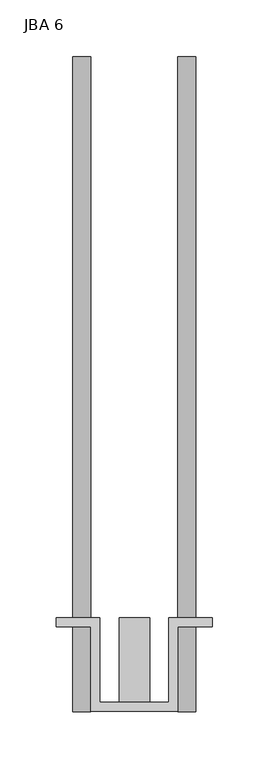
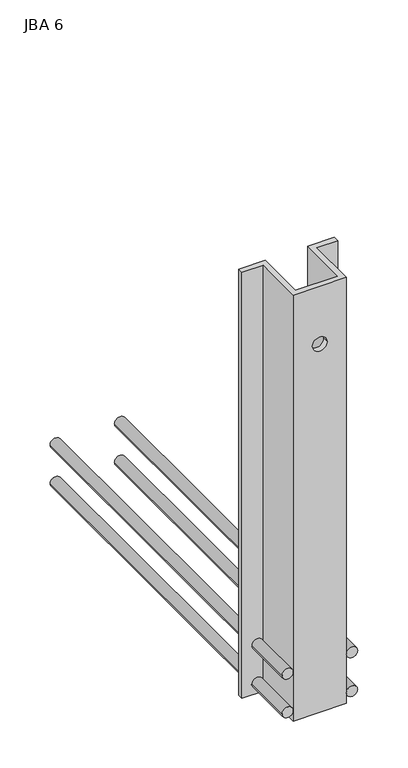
"""IFC4 building model written with IfcOpenShell, lengths in millimetres: fastener geometry, JBA JORDAHL® support corbels_1 : JBA 6."""

from ifc_helpers import new_model, si_unit, point, frame, frame_2d, origin, place, context, project, spatial, polyline, circle_curve, trimmed, segment, composite_curve, outline, extrude, source, transform, mapped, element, save
from ifc_brep_helpers import plane_surface, revolved_surface, advanced_brep


def jba_6_cc252f45(model_context):
    return source(origin(), model_context, "Body", "SolidModel", [
        extrude(outline(composite_curve([segment(trimmed(circle_curve(frame_2d((-33.0, -46.5)), 8.0), [point((-33.0, -54.5))], [point((-33.0, -38.5))], False, "CARTESIAN"), True, "CONTINUOUS"), segment(trimmed(circle_curve(frame_2d((-33.0, -46.5)), 8.0), [point((-33.0, -38.5))], [point((-33.0, -54.5))], False, "CARTESIAN"), True, "CONTINUOUS")], self_intersect=False)), frame((0.0, 0.0, 0.0), z_axis=(0.0, 1.0, 0.0), x_axis=(0.0, 0.0, 1.0)), (0.0, 0.0, 1.0), 580.0),
        extrude(outline(composite_curve([segment(trimmed(circle_curve(frame_2d((-33.0, 46.5)), 8.0), [point((-33.0, 38.5))], [point((-33.0, 54.5))], False, "CARTESIAN"), True, "CONTINUOUS"), segment(trimmed(circle_curve(frame_2d((-33.0, 46.5)), 8.0), [point((-33.0, 54.5))], [point((-33.0, 38.5))], False, "CARTESIAN"), True, "CONTINUOUS")], self_intersect=False)), frame((0.0, 0.0, 0.0), z_axis=(0.0, 1.0, 0.0), x_axis=(0.0, 0.0, 1.0)), (0.0, 0.0, 1.0), 580.0),
        extrude(outline(composite_curve([segment(trimmed(circle_curve(frame_2d((-92.0, -46.5)), 8.0), [point((-92.0, -54.5))], [point((-92.0, -38.5))], False, "CARTESIAN"), True, "CONTINUOUS"), segment(trimmed(circle_curve(frame_2d((-92.0, -46.5)), 8.0), [point((-92.0, -38.5))], [point((-92.0, -54.5))], False, "CARTESIAN"), True, "CONTINUOUS")], self_intersect=False)), frame((0.0, 0.0, 0.0), z_axis=(0.0, 1.0, 0.0), x_axis=(0.0, 0.0, 1.0)), (0.0, 0.0, 1.0), 580.0),
        extrude(outline(composite_curve([segment(trimmed(circle_curve(frame_2d((-92.0, 46.5)), 8.0), [point((-92.0, 38.5))], [point((-92.0, 54.5))], False, "CARTESIAN"), True, "CONTINUOUS"), segment(trimmed(circle_curve(frame_2d((-92.0, 46.5)), 8.0), [point((-92.0, 54.5))], [point((-92.0, 38.5))], False, "CARTESIAN"), True, "CONTINUOUS")], self_intersect=False)), frame((0.0, 0.0, 0.0), z_axis=(0.0, 1.0, 0.0), x_axis=(0.0, 0.0, 1.0)), (0.0, 0.0, 1.0), 580.0),
        advanced_brep(
        [(-69.0, 75.0, 542.0), (-38.5, 75.0, 542.0), (-38.5, 0.0, 542.0), (38.5, 0.0, 542.0), (38.5, 75.0, 542.0), (69.0, 75.0, 542.0), (69.0, 83.0, 542.0), (30.5, 83.0, 542.0), (30.5, 8.0, 542.0), (-30.5, 8.0, 542.0), (-30.5, 83.0, 542.0), (-69.0, 83.0, 542.0), (-69.0, 75.0, -108.0), (-69.0, 83.0, -108.0), (-30.5, 83.0, -108.0), (-30.5, 8.0, -108.0), (30.5, 8.0, -108.0), (30.5, 83.0, -108.0), (69.0, 83.0, -108.0), (69.0, 75.0, -108.0), (38.5, 75.0, -108.0), (38.5, 0.0, -108.0), (-38.5, 0.0, -108.0), (-38.5, 75.0, -108.0), (10.5, 0.0, 454.0), (-10.5, 0.0, 454.0), (-10.5, 8.0, 454.0), (10.5, 8.0, 454.0)],
        [
            (0, 1),
            (1, 2),
            (2, 3),
            (3, 4),
            (4, 5),
            (5, 6),
            (6, 7),
            (7, 8),
            (8, 9),
            (9, 10),
            (10, 11),
            (11, 0),
            (12, 13),
            (13, 14),
            (14, 15),
            (15, 16),
            (16, 17),
            (17, 18),
            (18, 19),
            (19, 20),
            (20, 21),
            (21, 22),
            (22, 23),
            (23, 12),
            (0, 12),
            (23, 1),
            (22, 2),
            (21, 3),
            (24, 25, circle_curve(frame((0.0, 0.0, 454.0), z_axis=(0.0, 1.0, 0.0), x_axis=(1.0, 0.0, 0.0)), 10.5)),
            (25, 24, circle_curve(frame((0.0, 0.0, 454.0), z_axis=(0.0, 1.0, 0.0), x_axis=(1.0, 0.0, 0.0)), 10.5)),
            (20, 4),
            (19, 5),
            (18, 6),
            (17, 7),
            (16, 8),
            (15, 9),
            (26, 27, circle_curve(frame((0.0, 8.0, 454.0), z_axis=(0.0, -1.0, 0.0), x_axis=(1.0, 0.0, 0.0)), 10.5)),
            (27, 26, circle_curve(frame((0.0, 8.0, 454.0), z_axis=(0.0, -1.0, 0.0), x_axis=(1.0, 0.0, 0.0)), 10.5)),
            (14, 10),
            (13, 11),
            (24, 27),
            (26, 25),
        ],
        [
            plane_surface(frame((0.0, 83.0, 542.0), z_axis=(0.0, 0.0, 1.0), x_axis=(0.0, -1.0, 0.0))),
            plane_surface(frame((0.0, 83.0, -108.0), z_axis=(0.0, 0.0, -1.0), x_axis=(0.0, -1.0, 0.0))),
            plane_surface(frame((-69.0, 75.0, 542.0), z_axis=(0.0, -1.0, 0.0), x_axis=(0.0, 0.0, -1.0))),
            plane_surface(frame((-38.5, 75.0, 542.0), z_axis=(-1.0, 0.0, 0.0), x_axis=(0.0, 0.0, -1.0))),
            plane_surface(frame((-38.5, 0.0, 542.0), z_axis=(0.0, -1.0, 0.0), x_axis=(0.0, 0.0, -1.0))),
            plane_surface(frame((38.5, 0.0, 542.0), z_axis=(1.0, 0.0, 0.0), x_axis=(0.0, 0.0, -1.0))),
            plane_surface(frame((38.5, 75.0, 542.0), z_axis=(0.0, -1.0, 0.0), x_axis=(0.0, 0.0, -1.0))),
            plane_surface(frame((69.0, 75.0, 542.0), z_axis=(1.0, 0.0, 0.0), x_axis=(0.0, 0.0, -1.0))),
            plane_surface(frame((69.0, 83.0, 542.0), z_axis=(0.0, 1.0, 0.0), x_axis=(0.0, 0.0, -1.0))),
            plane_surface(frame((30.5, 83.0, 542.0), z_axis=(-1.0, 0.0, 0.0), x_axis=(0.0, 0.0, -1.0))),
            plane_surface(frame((30.5, 8.0, 542.0), z_axis=(0.0, 1.0, 0.0), x_axis=(0.0, 0.0, -1.0))),
            plane_surface(frame((-30.5, 8.0, 542.0), z_axis=(1.0, 0.0, 0.0), x_axis=(0.0, 0.0, -1.0))),
            plane_surface(frame((-30.5, 83.0, 542.0), z_axis=(0.0, 1.0, 0.0), x_axis=(0.0, 0.0, -1.0))),
            plane_surface(frame((-69.0, 83.0, 542.0), z_axis=(-1.0, 0.0, 0.0), x_axis=(0.0, 0.0, -1.0))),
            revolved_surface(polyline([(10.5, 0.0, 454.0), (10.5, 8.0, 454.0)]), (0.0, 8.0, 454.0), (0.0, -1.0, 0.0)),
        ],
        [
            (0, [[1, 2, 3, 4, 5, 6, 7, 8, 9, 10, 11, 12]]),
            (1, [[13, 14, 15, 16, 17, 18, 19, 20, 21, 22, 23, 24]]),
            (2, [[-1, 25, -24, 26]]),
            (3, [[-2, -26, -23, 27]]),
            (4, [[-3, -27, -22, 28], [29, 30]]),
            (5, [[-4, -28, -21, 31]]),
            (6, [[-5, -31, -20, 32]]),
            (7, [[-6, -32, -19, 33]]),
            (8, [[-7, -33, -18, 34]]),
            (9, [[-8, -34, -17, 35]]),
            (10, [[-9, -35, -16, 36], [37, 38]]),
            (11, [[-10, -36, -15, 39]]),
            (12, [[-11, -39, -14, 40]]),
            (13, [[-12, -40, -13, -25]]),
            (14, [[41, -37, 42, -29]]),
            (14, [[-41, -30, -42, -38]]),
        ],
    ),
        extrude(outline(composite_curve([segment(trimmed(circle_curve(frame_2d((50.0, 0.0)), 13.5), [point((50.0, -13.5))], [point((50.0, 13.5))], False, "CARTESIAN"), True, "CONTINUOUS"), segment(trimmed(circle_curve(frame_2d((50.0, 0.0)), 13.5), [point((50.0, 13.5))], [point((50.0, -13.5))], False, "CARTESIAN"), True, "CONTINUOUS")], self_intersect=False)), frame((0.0, 8.0, 0.0), z_axis=(0.0, 1.0, 0.0), x_axis=(0.0, 0.0, 1.0)), (0.0, 0.0, 1.0), 75.0),
    ])


if __name__ == "__main__":
    model = new_model("IFC4")
    model_context = context("Model", 3, world=origin())
    ifc_project = project(units=[si_unit("LENGTHUNIT", "METRE", prefix="MILLI")], contexts=[model_context])
    site = spatial("IfcSite", under=ifc_project)
    building = spatial("IfcBuilding", under=site)
    placement = place(None, origin())
    jba_6_shape = jba_6_cc252f45(model_context)
    element("IfcFastener", 1, ObjectType="JBA JORDAHL® support corbels_1 : JBA 6", at=placement, inside=building, context=model_context, shape_type="MappedRepresentation", body=[
        mapped(jba_6_shape, transform((0.0, 0.0, 0.0), x_axis=(1.0, 0.0, 0.0), y_axis=(0.0, 1.0, 0.0), z_axis=(0.0, 0.0, 1.0))),
    ])
    save(model, "model.ifc")
